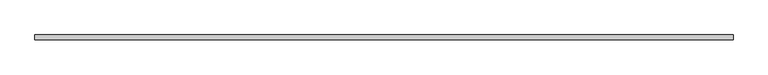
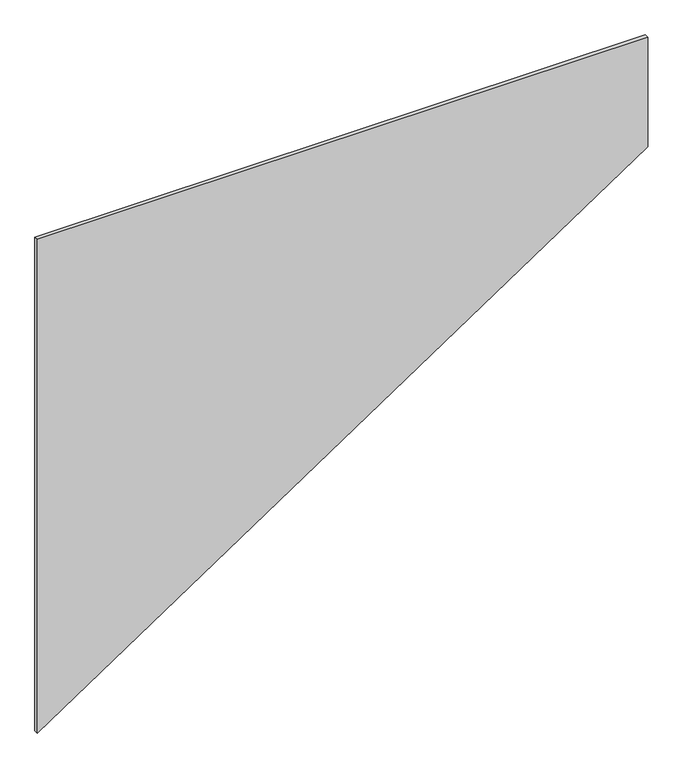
"""IFC4 building model written with IfcOpenShell, lengths in millimetres: plate geometry, 系統嵌板 : 玻璃 1.0cm."""

from ifc_helpers import new_model, si_unit, frame, origin, place, context, project, spatial, polyline, outline, extrude, source, transform, mapped, element, save


def plate_a386497d(model_context):
    return source(origin(), model_context, "Body", "SweptSolid", [
        extrude(outline(polyline([(0.0, -750.0), (997.4265021, 750.0), (1282.4185161, 750.0), (1282.4185161, -750.0), (0.0, -750.0)])), frame((0.0, -5.0, 0.0), z_axis=(0.0, 1.0, 0.0), x_axis=(0.0, 0.0, 1.0)), (0.0, 0.0, 1.0), 10.0),
    ])


if __name__ == "__main__":
    model = new_model("IFC4")
    model_context = context("Model", 3, world=origin())
    ifc_project = project(units=[si_unit("LENGTHUNIT", "METRE", prefix="MILLI")], contexts=[model_context])
    site = spatial("IfcSite", under=ifc_project)
    building = spatial("IfcBuilding", under=site)
    placement = place(None, origin())
    plate_shape = plate_a386497d(model_context)
    element("IfcPlate", 1, ObjectType="系統嵌板 : 玻璃 1.0cm", at=placement, inside=building, context=model_context, shape_type="MappedRepresentation", body=[
        mapped(plate_shape, transform((0.0, 0.0, 0.0), x_axis=(1.0, 0.0, 0.0), y_axis=(0.0, 1.0, 0.0), z_axis=(0.0, 0.0, 1.0))),
    ])
    save(model, "model.ifc")
